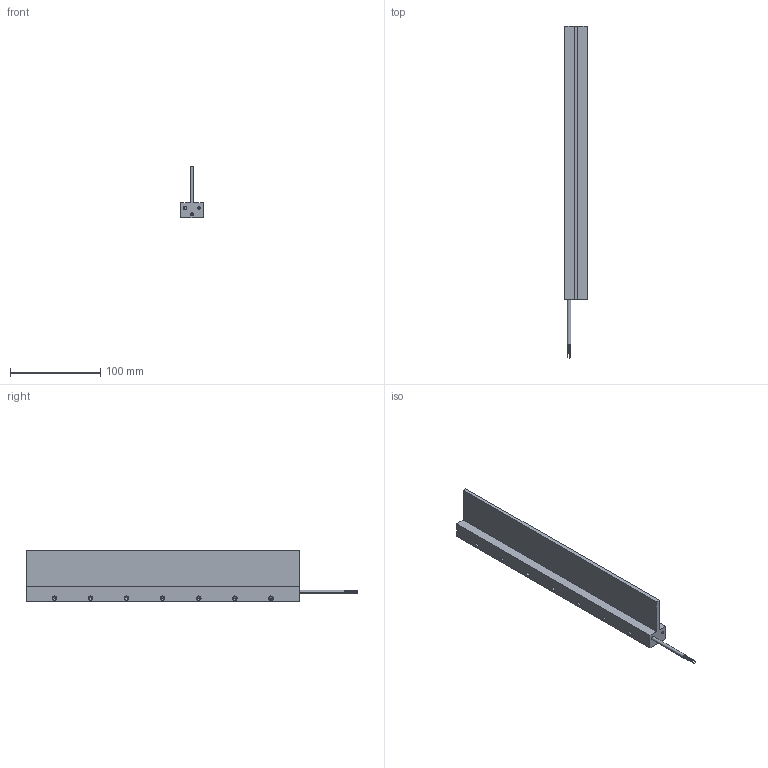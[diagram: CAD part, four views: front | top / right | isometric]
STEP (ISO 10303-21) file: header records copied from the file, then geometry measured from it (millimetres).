
FILE_DESCRIPTION((''),'2;1');
FILE_NAME('IL18-030','2006-04-05T',('saurabh.singhal'),('Kollmorgen'),'PRO/ENGINEER BY PARAMETRIC TECHNOLOGY CORPORATION, 2005310','PRO/ENGINEER BY PARAMETRIC TECHNOLOGY CORPORATION, 2005310','');
FILE_SCHEMA(('CONFIG_CONTROL_DESIGN'));
Length unit declared in the file: millimetre
Products named in the file (1): IL18-030
Bounding box: 24.4 x 367.82 x 57.3 mm (x, y, z)
Volume: 177928.2 mm3; surface area: 55591.8 mm2
Topology: 1 solids, 29 shells, 245 faces, 606 edges, 376 vertices
Faces by surface type: cylinder 138, cone 56, plane 51
Entity records: 7003 total; most frequent: DIRECTION 1374, CARTESIAN_POINT 1172, ORIENTED_EDGE 988, AXIS2_PLACEMENT_3D 578, EDGE_CURVE 550, VERTEX_POINT 376, CIRCLE 332, EDGE_LOOP 314
